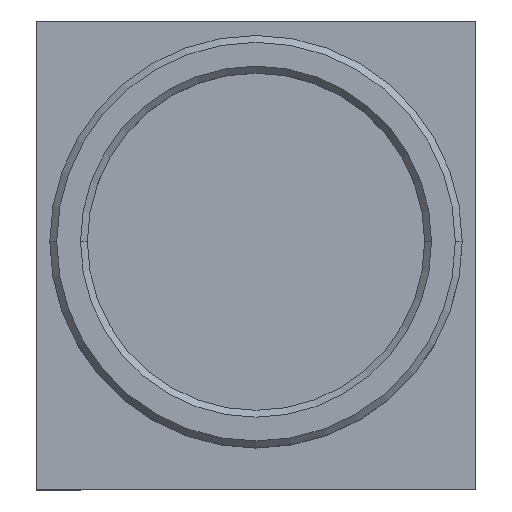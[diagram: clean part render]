
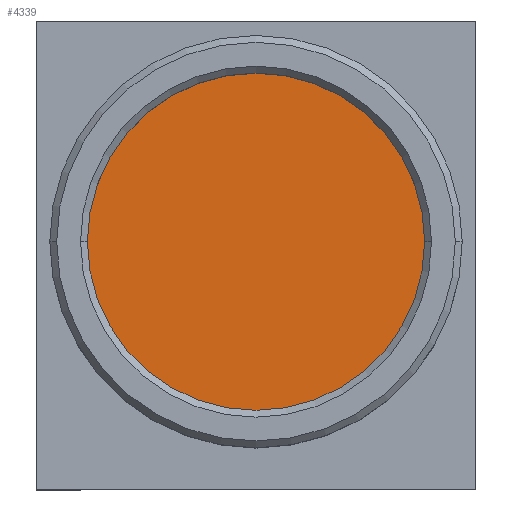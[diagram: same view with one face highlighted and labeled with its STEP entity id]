
A CAD part, top view. The second image highlights one B-rep face of the part: STEP entity #4339.
In plain terms, the highlighted planar face has unit normal (0, 0, 1).
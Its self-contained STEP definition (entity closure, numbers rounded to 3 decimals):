
#304 = CARTESIAN_POINT ( 'NONE',  ( 12.268, 15., 3.6 ) ) ;
#341 = CARTESIAN_POINT ( 'NONE',  ( -12.268, 15., 3.6 ) ) ;
#375 = DIRECTION ( 'NONE',  ( 1., 0., 0. ) ) ;
#376 = DIRECTION ( 'NONE',  ( 0., 0., 1. ) ) ;
#377 = CARTESIAN_POINT ( 'NONE',  ( 0., 15., 3.6 ) ) ;
#378 = AXIS2_PLACEMENT_3D ( 'NONE', #377, #376, #375 ) ;
#379 = CIRCLE ( 'NONE', #378, 12.268 ) ;
#1342 = EDGE_CURVE ( 'NONE', #5121, #5135, #2094, .T. ) ;
#2094 = CIRCLE ( 'NONE', #2157, 12.268 ) ;
#2154 = DIRECTION ( 'NONE',  ( 1., 0., 0. ) ) ;
#2155 = DIRECTION ( 'NONE',  ( 0., 0., 1. ) ) ;
#2156 = CARTESIAN_POINT ( 'NONE',  ( 0., 15., 3.6 ) ) ;
#2157 = AXIS2_PLACEMENT_3D ( 'NONE', #2156, #2155, #2154 ) ;
#2741 = CARTESIAN_POINT ( 'NONE',  ( 0., 15., 3.6 ) ) ;
#2742 = AXIS2_PLACEMENT_3D ( 'NONE', #2741, #2803, #2802 ) ;
#2743 = PLANE ( 'NONE',  #2742 ) ;
#2744 = FACE_OUTER_BOUND ( 'NONE', #4341, .T. ) ;
#2802 = DIRECTION ( 'NONE',  ( 1., 0., 0. ) ) ;
#2803 = DIRECTION ( 'NONE',  ( 0., 0., 1. ) ) ;
#4339 = ADVANCED_FACE ( 'NONE', ( #2744 ), #2743, .T. ) ;
#4341 = EDGE_LOOP ( 'NONE', ( #4343, #4366 ) ) ;
#4343 = ORIENTED_EDGE ( 'NONE', *, *, #1342, .T. ) ;
#4366 = ORIENTED_EDGE ( 'NONE', *, *, #5147, .T. ) ;
#5121 = VERTEX_POINT ( 'NONE', #304 ) ;
#5135 = VERTEX_POINT ( 'NONE', #341 ) ;
#5147 = EDGE_CURVE ( 'NONE', #5135, #5121, #379, .T. ) ;
